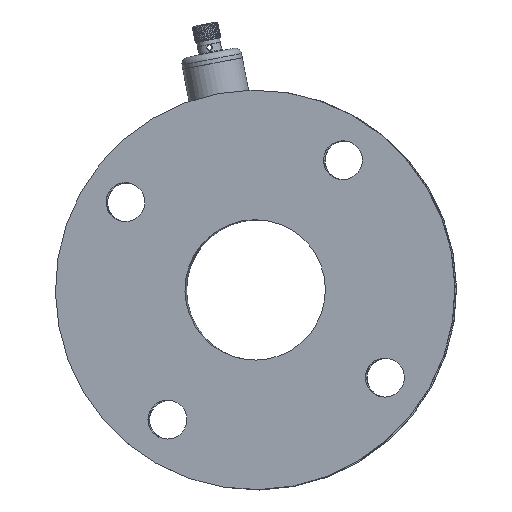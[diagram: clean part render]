
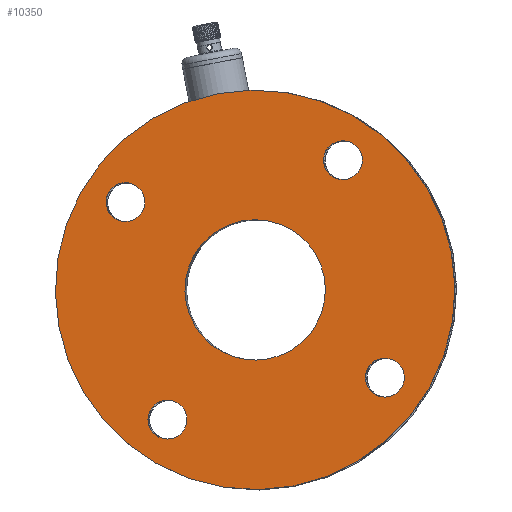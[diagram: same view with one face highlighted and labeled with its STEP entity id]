
A CAD part, top view. The second image highlights one B-rep face of the part: STEP entity #10350.
In plain terms, the highlighted planar face has unit normal (-0.004, -0.001, 1) as drawn and (0, 0, 1) by its records, which use the part's own axes.
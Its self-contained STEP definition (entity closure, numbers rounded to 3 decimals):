
#3 = CARTESIAN_POINT ( 'NONE',  ( -51.265, 51.265, 87.5 ) ) ;
#37 = AXIS2_PLACEMENT_3D ( 'NONE', #2917, #9393, #460 ) ;
#66 = CARTESIAN_POINT ( 'NONE',  ( 42.265, 51.265, 87.5 ) ) ;
#109 = DIRECTION ( 'NONE',  ( 1., 0., 0. ) ) ;
#130 = EDGE_LOOP ( 'NONE', ( #1322, #9487 ) ) ;
#178 = VERTEX_POINT ( 'NONE', #66 ) ;
#286 = DIRECTION ( 'NONE',  ( 1., 0., 0. ) ) ;
#288 = ORIENTED_EDGE ( 'NONE', *, *, #1998, .F. ) ;
#322 = CARTESIAN_POINT ( 'NONE',  ( -60.265, -51.265, 87.5 ) ) ;
#329 = EDGE_LOOP ( 'NONE', ( #8596, #4069 ) ) ;
#339 = CARTESIAN_POINT ( 'NONE',  ( 51.265, -51.265, 87.5 ) ) ;
#390 = FACE_BOUND ( 'NONE', #823, .T. ) ;
#392 = CIRCLE ( 'NONE', #2090, 9. ) ;
#395 = DIRECTION ( 'NONE',  ( 1., 0., 0. ) ) ;
#460 = DIRECTION ( 'NONE',  ( 1., 0., 0. ) ) ;
#564 = AXIS2_PLACEMENT_3D ( 'NONE', #8705, #5414, #10300 ) ;
#643 = AXIS2_PLACEMENT_3D ( 'NONE', #4376, #2842, #1076 ) ;
#823 = EDGE_LOOP ( 'NONE', ( #4958, #6625 ) ) ;
#888 = DIRECTION ( 'NONE',  ( 1., 0., 0. ) ) ;
#893 = CARTESIAN_POINT ( 'NONE',  ( -92.5, 0., 87.5 ) ) ;
#967 = DIRECTION ( 'NONE',  ( 0., 0., 1. ) ) ;
#1027 = DIRECTION ( 'NONE',  ( 0., 0., 1. ) ) ;
#1076 = DIRECTION ( 'NONE',  ( 1., 0., 0. ) ) ;
#1225 = EDGE_CURVE ( 'NONE', #8139, #6403, #9304, .T. ) ;
#1322 = ORIENTED_EDGE ( 'NONE', *, *, #8307, .F. ) ;
#1350 = EDGE_CURVE ( 'NONE', #6052, #6096, #10164, .T. ) ;
#1523 = EDGE_LOOP ( 'NONE', ( #7860, #288 ) ) ;
#1662 = VERTEX_POINT ( 'NONE', #9039 ) ;
#1698 = DIRECTION ( 'NONE',  ( 0., 0., 1. ) ) ;
#1783 = DIRECTION ( 'NONE',  ( 1., 0., 0. ) ) ;
#1823 = CARTESIAN_POINT ( 'NONE',  ( 60.265, -51.265, 87.5 ) ) ;
#1866 = DIRECTION ( 'NONE',  ( 0., 0., 1. ) ) ;
#1881 = FACE_BOUND ( 'NONE', #1523, .T. ) ;
#1889 = VERTEX_POINT ( 'NONE', #7665 ) ;
#1893 = CARTESIAN_POINT ( 'NONE',  ( 0., 0., 87.5 ) ) ;
#1998 = EDGE_CURVE ( 'NONE', #178, #8595, #5730, .T. ) ;
#2016 = CARTESIAN_POINT ( 'NONE',  ( -60.265, 51.265, 87.5 ) ) ;
#2090 = AXIS2_PLACEMENT_3D ( 'NONE', #10454, #10353, #5565 ) ;
#2209 = EDGE_CURVE ( 'NONE', #2511, #9697, #6842, .T. ) ;
#2511 = VERTEX_POINT ( 'NONE', #2016 ) ;
#2621 = AXIS2_PLACEMENT_3D ( 'NONE', #2846, #8375, #286 ) ;
#2779 = CARTESIAN_POINT ( 'NONE',  ( -42.265, -51.265, 87.5 ) ) ;
#2842 = DIRECTION ( 'NONE',  ( 0., 0., 1. ) ) ;
#2846 = CARTESIAN_POINT ( 'NONE',  ( 0., 0., 87.5 ) ) ;
#2917 = CARTESIAN_POINT ( 'NONE',  ( -51.265, -51.265, 87.5 ) ) ;
#2972 = AXIS2_PLACEMENT_3D ( 'NONE', #4730, #7144, #7098 ) ;
#3075 = ORIENTED_EDGE ( 'NONE', *, *, #1225, .T. ) ;
#3103 = AXIS2_PLACEMENT_3D ( 'NONE', #1893, #9230, #1783 ) ;
#3181 = AXIS2_PLACEMENT_3D ( 'NONE', #8356, #1866, #6871 ) ;
#3438 = CIRCLE ( 'NONE', #7696, 9. ) ;
#3834 = EDGE_CURVE ( 'NONE', #6096, #6052, #8542, .T. ) ;
#3891 = VERTEX_POINT ( 'NONE', #8657 ) ;
#4069 = ORIENTED_EDGE ( 'NONE', *, *, #8909, .F. ) ;
#4113 = CIRCLE ( 'NONE', #3103, 32.5 ) ;
#4188 = CARTESIAN_POINT ( 'NONE',  ( 51.265, 51.265, 87.5 ) ) ;
#4334 = CARTESIAN_POINT ( 'NONE',  ( -42.265, 51.265, 87.5 ) ) ;
#4376 = CARTESIAN_POINT ( 'NONE',  ( -51.265, -51.265, 87.5 ) ) ;
#4429 = FACE_BOUND ( 'NONE', #130, .T. ) ;
#4512 = DIRECTION ( 'NONE',  ( 0., 0., 1. ) ) ;
#4730 = CARTESIAN_POINT ( 'NONE',  ( 51.265, -51.265, 87.5 ) ) ;
#4758 = CARTESIAN_POINT ( 'NONE',  ( 92.5, 0., 87.5 ) ) ;
#4787 = AXIS2_PLACEMENT_3D ( 'NONE', #4188, #4913, #888 ) ;
#4913 = DIRECTION ( 'NONE',  ( 0., 0., 1. ) ) ;
#4958 = ORIENTED_EDGE ( 'NONE', *, *, #3834, .F. ) ;
#4961 = VERTEX_POINT ( 'NONE', #1823 ) ;
#4962 = CIRCLE ( 'NONE', #564, 92.5 ) ;
#5052 = DIRECTION ( 'NONE',  ( 1., 0., 0. ) ) ;
#5111 = FACE_OUTER_BOUND ( 'NONE', #5113, .T. ) ;
#5113 = EDGE_LOOP ( 'NONE', ( #7589, #3075 ) ) ;
#5414 = DIRECTION ( 'NONE',  ( 0., 0., 1. ) ) ;
#5512 = EDGE_LOOP ( 'NONE', ( #6954, #8954 ) ) ;
#5565 = DIRECTION ( 'NONE',  ( 1., 0., 0. ) ) ;
#5574 = AXIS2_PLACEMENT_3D ( 'NONE', #8262, #967, #5052 ) ;
#5730 = CIRCLE ( 'NONE', #3181, 9. ) ;
#5737 = EDGE_CURVE ( 'NONE', #4961, #1889, #9414, .T. ) ;
#5956 = AXIS2_PLACEMENT_3D ( 'NONE', #10258, #4512, #7761 ) ;
#6038 = CIRCLE ( 'NONE', #5956, 32.5 ) ;
#6052 = VERTEX_POINT ( 'NONE', #322 ) ;
#6096 = VERTEX_POINT ( 'NONE', #2779 ) ;
#6403 = VERTEX_POINT ( 'NONE', #893 ) ;
#6625 = ORIENTED_EDGE ( 'NONE', *, *, #1350, .F. ) ;
#6695 = EDGE_CURVE ( 'NONE', #1662, #3891, #6038, .T. ) ;
#6842 = CIRCLE ( 'NONE', #9915, 9. ) ;
#6871 = DIRECTION ( 'NONE',  ( 1., 0., 0. ) ) ;
#6890 = FACE_BOUND ( 'NONE', #329, .T. ) ;
#6954 = ORIENTED_EDGE ( 'NONE', *, *, #8730, .F. ) ;
#7098 = DIRECTION ( 'NONE',  ( 1., 0., 0. ) ) ;
#7144 = DIRECTION ( 'NONE',  ( 0., 0., 1. ) ) ;
#7187 = CARTESIAN_POINT ( 'NONE',  ( 60.265, 51.265, 87.5 ) ) ;
#7516 = CIRCLE ( 'NONE', #4787, 9. ) ;
#7589 = ORIENTED_EDGE ( 'NONE', *, *, #8714, .T. ) ;
#7665 = CARTESIAN_POINT ( 'NONE',  ( 42.265, -51.265, 87.5 ) ) ;
#7681 = FACE_BOUND ( 'NONE', #5512, .T. ) ;
#7696 = AXIS2_PLACEMENT_3D ( 'NONE', #339, #1027, #395 ) ;
#7761 = DIRECTION ( 'NONE',  ( 1., 0., 0. ) ) ;
#7860 = ORIENTED_EDGE ( 'NONE', *, *, #9020, .F. ) ;
#8139 = VERTEX_POINT ( 'NONE', #4758 ) ;
#8262 = CARTESIAN_POINT ( 'NONE',  ( 0., 0., 87.5 ) ) ;
#8307 = EDGE_CURVE ( 'NONE', #3891, #1662, #4113, .T. ) ;
#8356 = CARTESIAN_POINT ( 'NONE',  ( 51.265, 51.265, 87.5 ) ) ;
#8375 = DIRECTION ( 'NONE',  ( 0., 0., 1. ) ) ;
#8542 = CIRCLE ( 'NONE', #37, 9. ) ;
#8595 = VERTEX_POINT ( 'NONE', #7187 ) ;
#8596 = ORIENTED_EDGE ( 'NONE', *, *, #5737, .F. ) ;
#8657 = CARTESIAN_POINT ( 'NONE',  ( 32.5, 0., 87.5 ) ) ;
#8705 = CARTESIAN_POINT ( 'NONE',  ( 0., 0., 87.5 ) ) ;
#8714 = EDGE_CURVE ( 'NONE', #6403, #8139, #4962, .T. ) ;
#8730 = EDGE_CURVE ( 'NONE', #9697, #2511, #392, .T. ) ;
#8909 = EDGE_CURVE ( 'NONE', #1889, #4961, #3438, .T. ) ;
#8954 = ORIENTED_EDGE ( 'NONE', *, *, #2209, .F. ) ;
#9020 = EDGE_CURVE ( 'NONE', #8595, #178, #7516, .T. ) ;
#9039 = CARTESIAN_POINT ( 'NONE',  ( -32.5, 0., 87.5 ) ) ;
#9230 = DIRECTION ( 'NONE',  ( 0., 0., 1. ) ) ;
#9304 = CIRCLE ( 'NONE', #5574, 92.5 ) ;
#9393 = DIRECTION ( 'NONE',  ( 0., 0., 1. ) ) ;
#9414 = CIRCLE ( 'NONE', #2972, 9. ) ;
#9487 = ORIENTED_EDGE ( 'NONE', *, *, #6695, .F. ) ;
#9697 = VERTEX_POINT ( 'NONE', #4334 ) ;
#9915 = AXIS2_PLACEMENT_3D ( 'NONE', #3, #1698, #109 ) ;
#10122 = PLANE ( 'NONE',  #2621 ) ;
#10164 = CIRCLE ( 'NONE', #643, 9. ) ;
#10258 = CARTESIAN_POINT ( 'NONE',  ( 0., 0., 87.5 ) ) ;
#10300 = DIRECTION ( 'NONE',  ( 1., 0., 0. ) ) ;
#10350 = ADVANCED_FACE ( 'NONE', ( #4429, #7681, #390, #6890, #1881, #5111 ), #10122, .T. ) ;
#10353 = DIRECTION ( 'NONE',  ( 0., 0., 1. ) ) ;
#10454 = CARTESIAN_POINT ( 'NONE',  ( -51.265, 51.265, 87.5 ) ) ;
